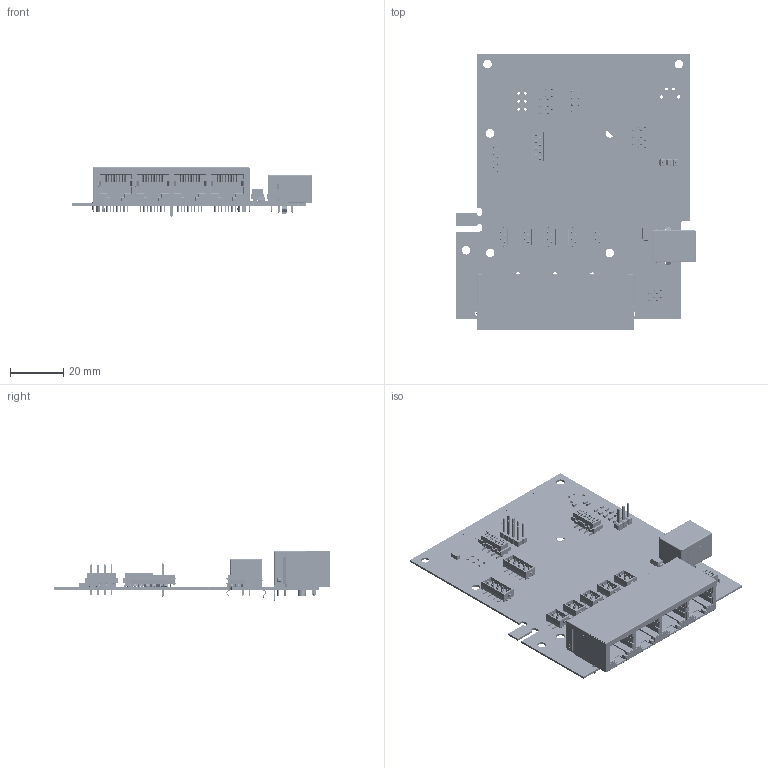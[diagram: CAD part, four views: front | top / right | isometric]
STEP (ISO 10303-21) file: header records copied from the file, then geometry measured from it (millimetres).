
FILE_DESCRIPTION(('FreeCAD Model'),'2;1');
FILE_NAME('Open CASCADE Shape Model','2023-09-01T15:41:19',('BH'),( 'Brainboxes'),'Open CASCADE STEP processor 7.6','FreeCAD','Unknown' );
FILE_SCHEMA(('CONFIG_CONTROL_DESIGN','SHAPE_APPEARANCE_LAYER_MIM'));
Length unit declared in the file: millimetre
Products named in the file (6): PE405; Connectors1; Components002; Connectors2; Silkscreen; PCB002
Assembly tree (5 placements, depth 2):
  PE405
    Connectors1
    Components002
    Connectors2
    Silkscreen
    PCB002
Bounding box: 90 x 104.15 x 18.5 mm (x, y, z)
Volume: 18809.2 mm3; surface area: 50750.5 mm2
Topology: 166 solids, 1040 shells, 7517 faces, 40467 edges, 34199 vertices
Faces by surface type: plane 6252, cylinder 1194, bspline 60, torus 5, revolution 4, cone 2
Full cylindrical faces by diameter (mm): 0.5 x60, 0.762 x4, 0.9 x32, 1 x71, 1.016 x19, 1.27 x2, 1.6 x5, 2.3 x2, 3.2 x7, 3.25 x2
Entity records: 454200 total; most frequent: CARTESIAN_POINT 112031, ORIENTED_EDGE 58437, DIRECTION 57626, EDGE_CURVE 40467, LINE 37542, VECTOR 37542, VERTEX_POINT 34199, AXIS2_PLACEMENT_3D 10040
